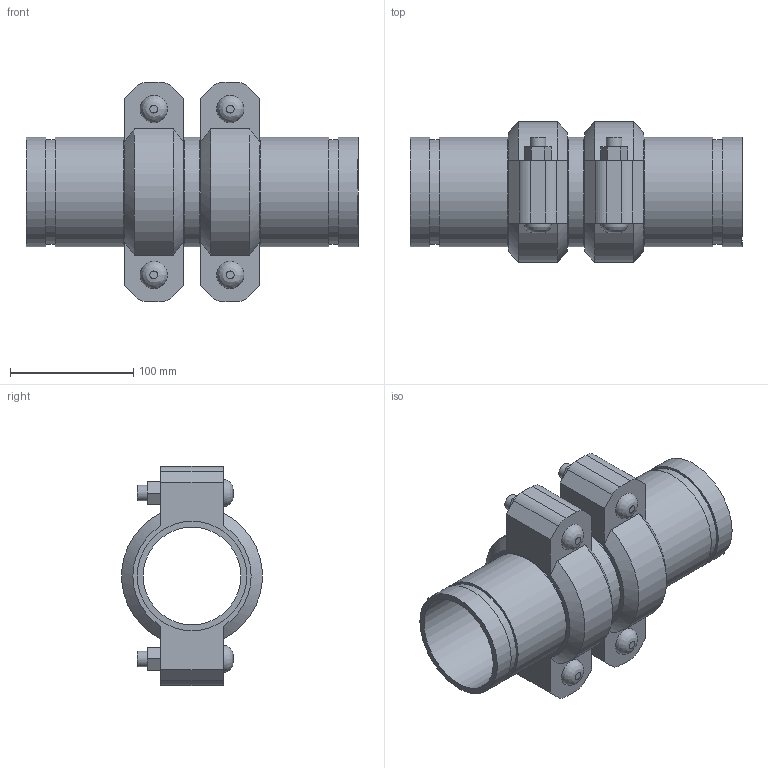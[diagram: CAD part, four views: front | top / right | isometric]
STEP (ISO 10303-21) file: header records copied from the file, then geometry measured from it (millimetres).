
FILE_DESCRIPTION(/* description */ ('VIC EXPANSION JOINT 2 COUPLINGS EXPANDED STYLE 155 (OGS)','CAx-IF Rec.Pracs.---Representation and Presentation of Product Manufacturing Information (PMI)---4.0---2014-10-13'),/* implementation_level */ '2;1');
FILE_NAME(/* name */ 'C:\Users\kkamble\AppData\Roaming\Autodesk\ApplicationPlugins\Victaulic.Temp\A706\Victaulic_IPS_Expansion Joint_Expanded_2 Couplings_Style 155 (OGS)_3 (80).stp',/* time_stamp */ '2021-06-26T23:56:26+02:00',/* author */ ('kkamble'),/* organization */ ('Victaulic'),/* preprocessor_version */ 'ST-DEVELOPER v17.2',/* originating_system */ 'Autodesk Inventor 2019',/* authorisation */ '');
FILE_SCHEMA (('AP242_MANAGED_MODEL_BASED_3D_ENGINEERING_MIM_LF { 1 0 10303 442 1 1 4 }'));
Length unit declared in the file: inch
Products named in the file (4): 155-03.0; Nipple-03.0; Nipple-03.0_1; 075-03.0
Assembly tree (5 placements, depth 2):
  155-03.0
    Nipple-03.0  x2
    Nipple-03.0_1
    075-03.0  x2
Bounding box: 269.49 x 113.88 x 177.8 mm (x, y, z)
Volume: 977507.7 mm3; surface area: 276348.8 mm2
Topology: 5 solids, 9 shells, 150 faces, 356 edges, 252 vertices
Faces by surface type: plane 90, cylinder 48, cone 8, bspline 4
Full cylindrical faces by diameter (mm): 12.7 x8, 14.605 x4, 79.35 x3, 82.55 x2, 84.938 x6, 88.9 x13
Entity records: 2753 total; most frequent: CARTESIAN_POINT 489, DIRECTION 453, ORIENTED_EDGE 386, EDGE_CURVE 193, AXIS2_PLACEMENT_3D 180, VERTEX_POINT 138, EDGE_LOOP 107, LINE 93
